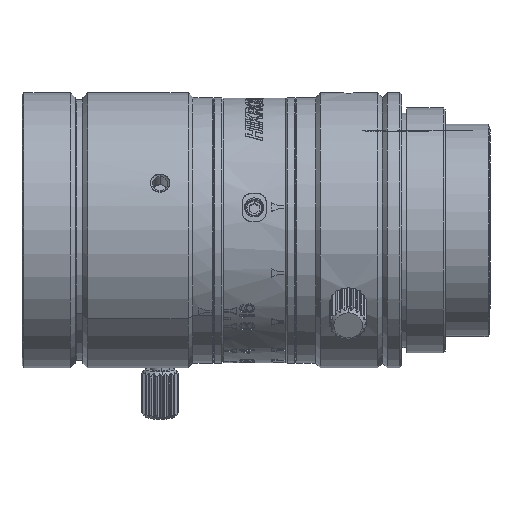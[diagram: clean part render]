
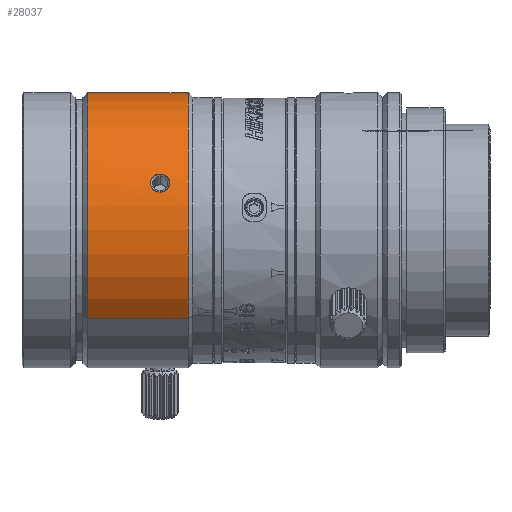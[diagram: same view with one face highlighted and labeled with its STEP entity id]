
A CAD part, top view. The second image highlights one B-rep face of the part: STEP entity #28037.
In plain terms, the highlighted cylindrical face has radius 14.25 mm (diameter 28.5 mm), a partial arc.
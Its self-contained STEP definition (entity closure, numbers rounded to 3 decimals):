
#3753=CARTESIAN_POINT('',(-40.27,0.,0.));
#3754=DIRECTION('',(-1.,0.,0.));
#3755=DIRECTION('',(0.,-0.643,0.766));
#3756=AXIS2_PLACEMENT_3D('',#3753,#3754,#3755);
#3763=CARTESIAN_POINT('',(-44.17,9.16,-10.916));
#3764=CARTESIAN_POINT('',(-44.17,9.198,-10.884));
#3765=CARTESIAN_POINT('',(-44.162,9.273,
-10.82));
#3766=CARTESIAN_POINT('',(-44.127,9.383,
-10.725));
#3767=CARTESIAN_POINT('',(-44.068,9.488,
-10.632));
#3768=CARTESIAN_POINT('',(-43.988,9.584,
-10.546));
#3769=CARTESIAN_POINT('',(-43.887,9.67,
-10.467));
#3770=CARTESIAN_POINT('',(-43.768,9.744,
-10.398));
#3771=CARTESIAN_POINT('',(-43.633,9.803,
-10.342));
#3772=CARTESIAN_POINT('',(-43.486,9.847,
-10.301));
#3773=CARTESIAN_POINT('',(-43.33,9.873,
-10.275));
#3774=CARTESIAN_POINT('',(-43.224,9.879,
-10.269));
#3775=CARTESIAN_POINT('',(-43.17,9.879,-10.269));
#3777=DIRECTION('',(-1.,0.,0.));
#3778=VECTOR('',#3777,10.4);
#3779=CARTESIAN_POINT('',(-40.27,-9.16,10.916));
#3780=LINE('',#3779,#3778);
#3781=CARTESIAN_POINT('',(-43.17,3.954,13.691));
#3782=CARTESIAN_POINT('',(-43.058,3.954,13.691));
#3783=CARTESIAN_POINT('',(-42.848,3.987,13.681));
#3784=CARTESIAN_POINT('',(-42.558,4.128,13.639));
#3785=CARTESIAN_POINT('',(-42.337,4.342,13.573));
#3786=CARTESIAN_POINT('',(-42.198,4.603,13.487));
#3787=CARTESIAN_POINT('',(-42.154,4.883,13.388));
#3788=CARTESIAN_POINT('',(-42.204,5.158,13.285));
#3789=CARTESIAN_POINT('',(-42.343,5.406,13.185));
#3790=CARTESIAN_POINT('',(-42.562,5.607,13.101));
#3791=CARTESIAN_POINT('',(-42.847,5.739,13.043));
#3792=CARTESIAN_POINT('',(-43.058,5.771,13.029));
#3793=CARTESIAN_POINT('',(-43.17,5.771,13.029));
#3814=DIRECTION('',(-1.,0.,0.));
#3815=VECTOR('',#3814,6.5);
#3816=CARTESIAN_POINT('',(-44.17,9.16,-10.916));
#3817=LINE('',#3816,#3815);
#3818=DIRECTION('',(-1.,0.,0.));
#3819=VECTOR('',#3818,1.9);
#3820=CARTESIAN_POINT('',(-40.27,9.16,-10.916));
#3821=LINE('',#3820,#3819);
#3877=CARTESIAN_POINT('',(-50.67,0.,0.));
#3878=DIRECTION('',(1.,0.,0.));
#3879=DIRECTION('',(0.,0.643,-0.766));
#3880=AXIS2_PLACEMENT_3D('',#3877,#3878,#3879);
#4824=CARTESIAN_POINT('',(-42.17,9.16,-10.916));
#4825=CARTESIAN_POINT('',(-42.17,9.23,-10.857));
#4826=CARTESIAN_POINT('',(-42.196,9.364,
-10.743));
#4827=CARTESIAN_POINT('',(-42.308,9.548,
-10.579));
#4828=CARTESIAN_POINT('',(-42.483,9.698,
-10.441));
#4829=CARTESIAN_POINT('',(-42.685,9.799,
-10.346));
#4830=CARTESIAN_POINT('',(-42.901,9.861,
-10.287));
#4831=CARTESIAN_POINT('',(-43.076,9.879,
-10.269));
#4832=CARTESIAN_POINT('',(-43.17,9.879,-10.269));
#7074=CARTESIAN_POINT('',(-43.17,3.954,13.691));
#7075=CARTESIAN_POINT('',(-43.277,3.954,13.691));
#7076=CARTESIAN_POINT('',(-43.482,3.984,13.682));
#7077=CARTESIAN_POINT('',(-43.771,4.121,13.642));
#7078=CARTESIAN_POINT('',(-43.998,4.334,13.576));
#7079=CARTESIAN_POINT('',(-44.141,4.598,13.489));
#7080=CARTESIAN_POINT('',(-44.186,4.883,13.388));
#7081=CARTESIAN_POINT('',(-44.135,5.162,13.283));
#7082=CARTESIAN_POINT('',(-43.991,5.414,13.182));
#7083=CARTESIAN_POINT('',(-43.768,5.614,13.098));
#7084=CARTESIAN_POINT('',(-43.482,5.742,13.042));
#7085=CARTESIAN_POINT('',(-43.278,5.771,13.029));
#7086=CARTESIAN_POINT('',(-43.17,5.771,13.029));
#22134=CARTESIAN_POINT('',(-40.27,-9.16,10.916));
#22135=VERTEX_POINT('',#22134);
#22136=CARTESIAN_POINT('',(-40.27,9.16,-10.916));
#22137=VERTEX_POINT('',#22136);
#22138=VERTEX_POINT('',#3763);
#22139=VERTEX_POINT('',#3775);
#22140=VERTEX_POINT('',#4824);
#22141=CARTESIAN_POINT('',(-50.67,-9.16,10.916));
#22142=VERTEX_POINT('',#22141);
#22143=CARTESIAN_POINT('',(-50.67,9.16,-10.916));
#22144=VERTEX_POINT('',#22143);
#22145=VERTEX_POINT('',#3781);
#22146=VERTEX_POINT('',#3793);
#28011=CARTESIAN_POINT('',(-52.685,0.,0.));
#28012=DIRECTION('',(1.,0.,0.));
#28013=DIRECTION('',(0.,-0.643,0.766));
#28014=AXIS2_PLACEMENT_3D('',#28011,#28012,#28013);
#28015=CYLINDRICAL_SURFACE('',#28014,14.25);
#28017=ORIENTED_EDGE('',*,*,#28016,.T.);
#28019=ORIENTED_EDGE('',*,*,#28018,.F.);
#28021=ORIENTED_EDGE('',*,*,#28020,.F.);
#28022=ORIENTED_EDGE('',*,*,#28004,.F.);
#28024=ORIENTED_EDGE('',*,*,#28023,.T.);
#28026=ORIENTED_EDGE('',*,*,#28025,.F.);
#28028=ORIENTED_EDGE('',*,*,#28027,.F.);
#28029=EDGE_LOOP('',(#28017,#28019,#28021,#28022,#28024,#28026,#28028));
#28030=FACE_OUTER_BOUND('',#28029,.F.);
#28032=ORIENTED_EDGE('',*,*,#28031,.T.);
#28034=ORIENTED_EDGE('',*,*,#28033,.F.);
#28035=EDGE_LOOP('',(#28032,#28034));
#28036=FACE_BOUND('',#28035,.F.);
#28037=ADVANCED_FACE('',(#28030,#28036),#28015,.T.);
#3757=CIRCLE('',#3756,14.25);
#3776=B_SPLINE_CURVE_WITH_KNOTS('',3,(#3763,#3764,#3765,#3766,#3767,#3768,#3769,
#3770,#3771,#3772,#3773,#3774,#3775),.UNSPECIFIED.,.F.,.F.,(4,1,1,1,1,1,1,1,1,1,
4),(0.,0.1,0.2,0.3,0.4,0.5,0.6,0.7,0.8,0.9,1.),
.UNSPECIFIED.);
#3794=B_SPLINE_CURVE_WITH_KNOTS('',3,(#3781,#3782,#3783,#3784,#3785,#3786,#3787,
#3788,#3789,#3790,#3791,#3792,#3793),.UNSPECIFIED.,.F.,.F.,(4,1,1,1,1,1,1,1,1,1,
4),(0.,0.1,0.2,0.3,0.4,0.5,0.6,0.7,0.8,0.9,1.),
.UNSPECIFIED.);
#3881=CIRCLE('',#3880,14.25);
#4833=B_SPLINE_CURVE_WITH_KNOTS('',3,(#4824,#4825,#4826,#4827,#4828,#4829,#4830,
#4831,#4832),.UNSPECIFIED.,.F.,.F.,(4,1,1,1,1,1,4),(0.,0.167,
0.333,0.5,0.667,0.833,1.),
.UNSPECIFIED.);
#7087=B_SPLINE_CURVE_WITH_KNOTS('',3,(#7074,#7075,#7076,#7077,#7078,#7079,#7080,
#7081,#7082,#7083,#7084,#7085,#7086),.UNSPECIFIED.,.F.,.F.,(4,1,1,1,1,1,1,1,1,1,
4),(0.,0.1,0.2,0.3,0.4,0.5,0.6,0.7,0.8,0.9,1.),
.UNSPECIFIED.);
#28004=EDGE_CURVE('',#22135,#22137,#3757,.T.);
#28016=EDGE_CURVE('',#22138,#22139,#3776,.T.);
#28018=EDGE_CURVE('',#22140,#22139,#4833,.T.);
#28020=EDGE_CURVE('',#22137,#22140,#3821,.T.);
#28023=EDGE_CURVE('',#22135,#22142,#3780,.T.);
#28025=EDGE_CURVE('',#22144,#22142,#3881,.T.);
#28027=EDGE_CURVE('',#22138,#22144,#3817,.T.);
#28031=EDGE_CURVE('',#22145,#22146,#3794,.T.);
#28033=EDGE_CURVE('',#22145,#22146,#7087,.T.);
